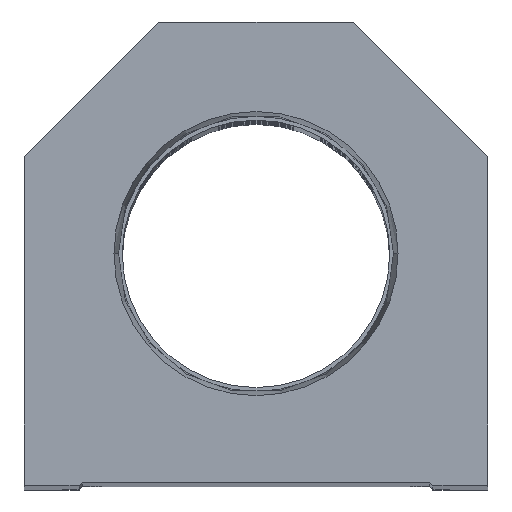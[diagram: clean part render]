
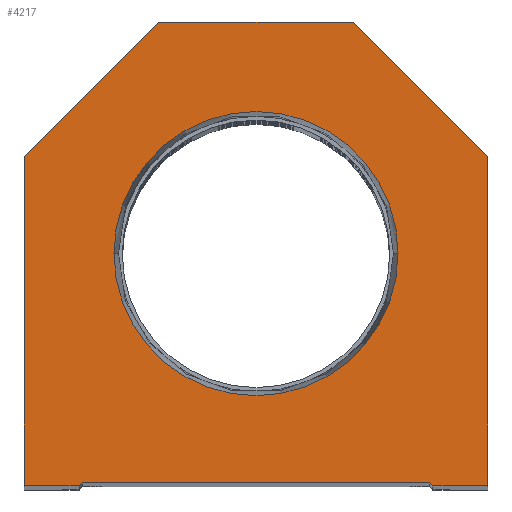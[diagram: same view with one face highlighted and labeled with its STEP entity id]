
A CAD part, top view. The second image highlights one B-rep face of the part: STEP entity #4217.
In plain terms, the highlighted planar face has unit normal (0, 0, 1).
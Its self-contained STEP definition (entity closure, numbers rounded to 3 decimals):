
#332 = AXIS2_PLACEMENT_3D ( 'NONE', #21151, #17950, #14540 ) ;
#369 = DIRECTION ( 'NONE',  ( 0., -1., 0. ) ) ;
#505 = VERTEX_POINT ( 'NONE', #4213 ) ;
#696 = CARTESIAN_POINT ( 'NONE',  ( -14.55, 14.55, 0. ) ) ;
#1072 = VECTOR ( 'NONE', #2000, 1000. ) ;
#1108 = VECTOR ( 'NONE', #10179, 1000. ) ;
#1402 = VERTEX_POINT ( 'NONE', #6331 ) ;
#1788 = LINE ( 'NONE', #19149, #6446 ) ;
#2000 = DIRECTION ( 'NONE',  ( 0., 1., 0. ) ) ;
#2067 = EDGE_LOOP ( 'NONE', ( #19175, #3344 ) ) ;
#2172 = ORIENTED_EDGE ( 'NONE', *, *, #9087, .T. ) ;
#2379 = EDGE_CURVE ( 'NONE', #505, #9841, #3480, .T. ) ;
#2603 = LINE ( 'NONE', #19710, #1108 ) ;
#2698 = VERTEX_POINT ( 'NONE', #12293 ) ;
#3143 = CARTESIAN_POINT ( 'NONE',  ( -23.374, 38.1, 0. ) ) ;
#3344 = ORIENTED_EDGE ( 'NONE', *, *, #12403, .F. ) ;
#3480 = LINE ( 'NONE', #8916, #19430 ) ;
#3723 = CARTESIAN_POINT ( 'NONE',  ( 38.1, 0., 0. ) ) ;
#4213 = CARTESIAN_POINT ( 'NONE',  ( -38.1, 54.1, 0. ) ) ;
#4217 = ADVANCED_FACE ( 'NONE', ( #14967, #18498 ), #11339, .T. ) ;
#4344 = CIRCLE ( 'NONE', #332, 23.374 ) ;
#4372 = ORIENTED_EDGE ( 'NONE', *, *, #15137, .T. ) ;
#4638 = CARTESIAN_POINT ( 'NONE',  ( 28.6, 0., 0. ) ) ;
#4667 = LINE ( 'NONE', #17023, #9538 ) ;
#4883 = DIRECTION ( 'NONE',  ( 0., 0., 1. ) ) ;
#5581 = CARTESIAN_POINT ( 'NONE',  ( 14.55, 14.55, 0. ) ) ;
#5715 = CARTESIAN_POINT ( 'NONE',  ( -28.6, 0., 0. ) ) ;
#5827 = DIRECTION ( 'NONE',  ( 1., 0., 0. ) ) ;
#5876 = CARTESIAN_POINT ( 'NONE',  ( -38.1, 0., 0. ) ) ;
#6300 = VERTEX_POINT ( 'NONE', #12557 ) ;
#6331 = CARTESIAN_POINT ( 'NONE',  ( 38.1, 54.1, 0. ) ) ;
#6392 = DIRECTION ( 'NONE',  ( 0., 0., 1. ) ) ;
#6446 = VECTOR ( 'NONE', #21320, 1000. ) ;
#7174 = EDGE_CURVE ( 'NONE', #16632, #12359, #9953, .T. ) ;
#7236 = CIRCLE ( 'NONE', #9047, 23.374 ) ;
#7486 = CARTESIAN_POINT ( 'NONE',  ( -29.1, 0., 0. ) ) ;
#7812 = ORIENTED_EDGE ( 'NONE', *, *, #20438, .T. ) ;
#7837 = EDGE_CURVE ( 'NONE', #2698, #505, #10995, .T. ) ;
#8108 = CARTESIAN_POINT ( 'NONE',  ( 28.6, 0.5, 0. ) ) ;
#8916 = CARTESIAN_POINT ( 'NONE',  ( -38.1, 0., 0. ) ) ;
#9047 = AXIS2_PLACEMENT_3D ( 'NONE', #14995, #6392, #9893 ) ;
#9087 = EDGE_CURVE ( 'NONE', #15416, #16632, #17700, .T. ) ;
#9209 = DIRECTION ( 'NONE',  ( 0.707, -0.707, 0. ) ) ;
#9416 = EDGE_CURVE ( 'NONE', #15833, #16168, #4344, .T. ) ;
#9463 = EDGE_CURVE ( 'NONE', #9841, #15855, #19642, .T. ) ;
#9538 = VECTOR ( 'NONE', #15197, 1000. ) ;
#9841 = VERTEX_POINT ( 'NONE', #5876 ) ;
#9893 = DIRECTION ( 'NONE',  ( 1., 0., 0. ) ) ;
#9953 = LINE ( 'NONE', #4638, #19755 ) ;
#10179 = DIRECTION ( 'NONE',  ( -0.707, 0.707, 0. ) ) ;
#10527 = VECTOR ( 'NONE', #15933, 1000. ) ;
#10995 = LINE ( 'NONE', #16111, #19489 ) ;
#11266 = EDGE_CURVE ( 'NONE', #15855, #19195, #21161, .T. ) ;
#11297 = ORIENTED_EDGE ( 'NONE', *, *, #11266, .T. ) ;
#11339 = PLANE ( 'NONE',  #20228 ) ;
#12293 = CARTESIAN_POINT ( 'NONE',  ( -16., 76.2, 0. ) ) ;
#12359 = VERTEX_POINT ( 'NONE', #16710 ) ;
#12403 = EDGE_CURVE ( 'NONE', #16168, #15833, #7236, .T. ) ;
#12557 = CARTESIAN_POINT ( 'NONE',  ( 16., 76.2, 0. ) ) ;
#12654 = ORIENTED_EDGE ( 'NONE', *, *, #7174, .T. ) ;
#12708 = CARTESIAN_POINT ( 'NONE',  ( 23.374, 38.1, 0. ) ) ;
#13075 = EDGE_CURVE ( 'NONE', #12359, #1402, #15635, .T. ) ;
#13593 = EDGE_CURVE ( 'NONE', #1402, #6300, #2603, .T. ) ;
#14540 = DIRECTION ( 'NONE',  ( 1., 0., 0. ) ) ;
#14913 = ORIENTED_EDGE ( 'NONE', *, *, #13075, .T. ) ;
#14967 = FACE_BOUND ( 'NONE', #2067, .T. ) ;
#14995 = CARTESIAN_POINT ( 'NONE',  ( 0., 38.1, 0. ) ) ;
#15137 = EDGE_CURVE ( 'NONE', #6300, #2698, #4667, .T. ) ;
#15197 = DIRECTION ( 'NONE',  ( -1., 0., 0. ) ) ;
#15416 = VERTEX_POINT ( 'NONE', #8108 ) ;
#15635 = LINE ( 'NONE', #3723, #1072 ) ;
#15833 = VERTEX_POINT ( 'NONE', #12708 ) ;
#15855 = VERTEX_POINT ( 'NONE', #7486 ) ;
#15933 = DIRECTION ( 'NONE',  ( 0.707, 0.707, 0. ) ) ;
#16111 = CARTESIAN_POINT ( 'NONE',  ( -38.1, 54.1, 0. ) ) ;
#16168 = VERTEX_POINT ( 'NONE', #3143 ) ;
#16632 = VERTEX_POINT ( 'NONE', #20179 ) ;
#16710 = CARTESIAN_POINT ( 'NONE',  ( 38.1, 0., 0. ) ) ;
#16998 = VECTOR ( 'NONE', #9209, 1000. ) ;
#17016 = VECTOR ( 'NONE', #5827, 1000. ) ;
#17023 = CARTESIAN_POINT ( 'NONE',  ( 16., 76.2, 0. ) ) ;
#17700 = LINE ( 'NONE', #5581, #16998 ) ;
#17950 = DIRECTION ( 'NONE',  ( 0., 0., 1. ) ) ;
#18247 = DIRECTION ( 'NONE',  ( 1., 0., 0. ) ) ;
#18498 = FACE_OUTER_BOUND ( 'NONE', #21362, .T. ) ;
#18608 = DIRECTION ( 'NONE',  ( 1., 0., 0. ) ) ;
#19149 = CARTESIAN_POINT ( 'NONE',  ( -28.6, 0.5, 0. ) ) ;
#19175 = ORIENTED_EDGE ( 'NONE', *, *, #9416, .F. ) ;
#19195 = VERTEX_POINT ( 'NONE', #19248 ) ;
#19248 = CARTESIAN_POINT ( 'NONE',  ( -28.6, 0.5, 0. ) ) ;
#19430 = VECTOR ( 'NONE', #369, 1000. ) ;
#19489 = VECTOR ( 'NONE', #19840, 1000. ) ;
#19518 = ORIENTED_EDGE ( 'NONE', *, *, #2379, .T. ) ;
#19642 = LINE ( 'NONE', #5715, #17016 ) ;
#19710 = CARTESIAN_POINT ( 'NONE',  ( 38.1, 54.1, 0. ) ) ;
#19755 = VECTOR ( 'NONE', #18247, 1000. ) ;
#19840 = DIRECTION ( 'NONE',  ( -0.707, -0.707, 0. ) ) ;
#20179 = CARTESIAN_POINT ( 'NONE',  ( 29.1, 0., 0. ) ) ;
#20228 = AXIS2_PLACEMENT_3D ( 'NONE', #21803, #4883, #18608 ) ;
#20438 = EDGE_CURVE ( 'NONE', #19195, #15416, #1788, .T. ) ;
#20448 = ORIENTED_EDGE ( 'NONE', *, *, #9463, .T. ) ;
#21151 = CARTESIAN_POINT ( 'NONE',  ( 0., 38.1, 0. ) ) ;
#21161 = LINE ( 'NONE', #696, #10527 ) ;
#21320 = DIRECTION ( 'NONE',  ( 1., 0., 0. ) ) ;
#21362 = EDGE_LOOP ( 'NONE', ( #20448, #11297, #7812, #2172, #12654, #14913, #22096, #4372, #22281, #19518 ) ) ;
#21803 = CARTESIAN_POINT ( 'NONE',  ( 0., 0., 0. ) ) ;
#22096 = ORIENTED_EDGE ( 'NONE', *, *, #13593, .T. ) ;
#22281 = ORIENTED_EDGE ( 'NONE', *, *, #7837, .T. ) ;
